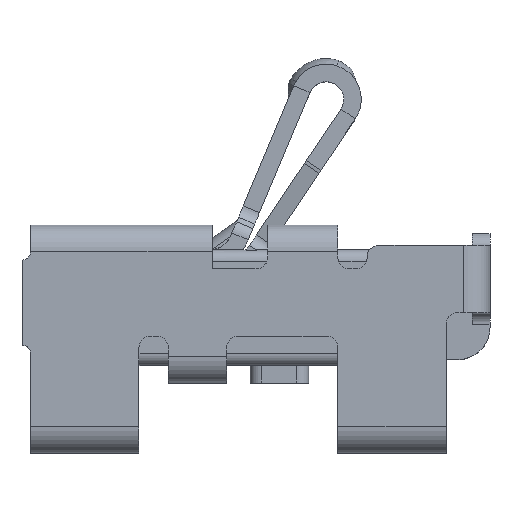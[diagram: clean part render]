
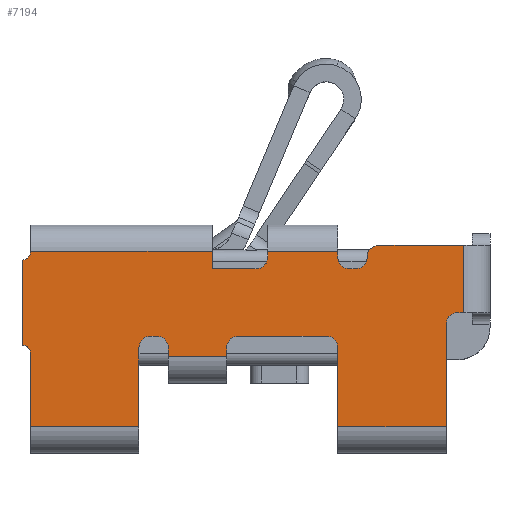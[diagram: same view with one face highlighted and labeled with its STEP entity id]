
A CAD part, top view. The second image highlights one B-rep face of the part: STEP entity #7194.
In plain terms, the highlighted planar face has unit normal (0, 0, 1).
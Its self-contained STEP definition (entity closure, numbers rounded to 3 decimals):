
#406=DIRECTION('',(0.,-1.,0.));
#407=VECTOR('',#406,0.25);
#408=CARTESIAN_POINT('',(-1.46,-0.02,0.3));
#409=LINE('',#408,#407);
#814=DIRECTION('',(1.,0.,0.));
#815=VECTOR('',#814,0.02);
#816=CARTESIAN_POINT('',(0.,0.12,0.3));
#817=LINE('',#816,#815);
#2282=CARTESIAN_POINT('',(-1.05,0.,0.3));
#2283=DIRECTION('',(0.,0.,1.));
#2284=DIRECTION('',(0.,1.,0.));
#2285=AXIS2_PLACEMENT_3D('',#2282,#2283,#2284);
#2287=CARTESIAN_POINT('',(-1.49,-0.02,0.3));
#2288=DIRECTION('',(0.,0.,1.));
#2289=DIRECTION('',(1.,0.,0.));
#2290=AXIS2_PLACEMENT_3D('',#2287,#2288,#2289);
#2292=DIRECTION('',(0.,1.,0.));
#2293=VECTOR('',#2292,0.29);
#2294=CARTESIAN_POINT('',(-1.49,0.01,0.3));
#2295=LINE('',#2294,#2293);
#2296=CARTESIAN_POINT('',(-1.49,0.33,0.3));
#2297=DIRECTION('',(0.,0.,1.));
#2298=DIRECTION('',(0.,-1.,0.));
#2299=AXIS2_PLACEMENT_3D('',#2296,#2297,#2298);
#2301=CARTESIAN_POINT('',(-0.69,0.31,0.3));
#2302=DIRECTION('',(0.,0.,1.));
#2303=DIRECTION('',(0.,-1.,0.));
#2304=AXIS2_PLACEMENT_3D('',#2301,#2302,#2303);
#2306=DIRECTION('',(0.,1.,0.));
#2307=VECTOR('',#2306,0.02);
#2308=CARTESIAN_POINT('',(-0.65,0.31,0.3));
#2309=LINE('',#2308,#2307);
#2310=CARTESIAN_POINT('',(-0.37,0.31,0.3));
#2311=DIRECTION('',(0.,0.,1.));
#2312=DIRECTION('',(-1.,0.,0.));
#2313=AXIS2_PLACEMENT_3D('',#2310,#2311,#2312);
#2315=CARTESIAN_POINT('',(-0.35,0.31,0.3));
#2316=DIRECTION('',(0.,0.,1.));
#2317=DIRECTION('',(0.,-1.,0.));
#2318=AXIS2_PLACEMENT_3D('',#2315,#2316,#2317);
#2320=CARTESIAN_POINT('',(-0.27,0.31,0.3));
#2321=DIRECTION('',(0.,0.,-1.));
#2322=DIRECTION('',(-1.,0.,0.));
#2323=AXIS2_PLACEMENT_3D('',#2320,#2321,#2322);
#2325=DIRECTION('',(1.,0.,0.));
#2326=VECTOR('',#2325,0.29);
#2327=CARTESIAN_POINT('',(-0.27,0.35,0.3));
#2328=LINE('',#2327,#2326);
#2329=CARTESIAN_POINT('',(0.,0.08,0.3));
#2330=DIRECTION('',(0.,0.,1.));
#2331=DIRECTION('',(0.,1.,0.));
#2332=AXIS2_PLACEMENT_3D('',#2329,#2330,#2331);
#2334=DIRECTION('',(0.,-1.,0.));
#2335=VECTOR('',#2334,0.35);
#2336=CARTESIAN_POINT('',(-0.04,0.08,0.3));
#2337=LINE('',#2336,#2335);
#2338=CARTESIAN_POINT('',(-0.45,0.,0.3));
#2339=DIRECTION('',(0.,0.,1.));
#2340=DIRECTION('',(1.,0.,0.));
#2341=AXIS2_PLACEMENT_3D('',#2338,#2339,#2340);
#2343=CARTESIAN_POINT('',(-0.75,0.,0.3));
#2344=DIRECTION('',(0.,0.,1.));
#2345=DIRECTION('',(0.,1.,0.));
#2346=AXIS2_PLACEMENT_3D('',#2343,#2344,#2345);
#2348=DIRECTION('',(0.,-1.,0.));
#2349=VECTOR('',#2348,0.03);
#2350=CARTESIAN_POINT('',(-0.79,0.,0.3));
#2351=LINE('',#2350,#2349);
#2352=CARTESIAN_POINT('',(-1.03,0.,0.3));
#2353=DIRECTION('',(0.,0.,1.));
#2354=DIRECTION('',(1.,0.,0.));
#2355=AXIS2_PLACEMENT_3D('',#2352,#2353,#2354);
#2361=DIRECTION('',(1.,0.,0.));
#2362=VECTOR('',#2361,0.02);
#2363=CARTESIAN_POINT('',(-1.05,0.04,0.3));
#2364=LINE('',#2363,#2362);
#2396=DIRECTION('',(0.,1.,0.));
#2397=VECTOR('',#2396,0.27);
#2398=CARTESIAN_POINT('',(-1.09,-0.27,0.3));
#2399=LINE('',#2398,#2397);
#2460=DIRECTION('',(1.,0.,0.));
#2461=VECTOR('',#2460,0.37);
#2462=CARTESIAN_POINT('',(-1.46,-0.27,0.3));
#2463=LINE('',#2462,#2461);
#2489=DIRECTION('',(0.,-1.,0.));
#2490=VECTOR('',#2489,0.03);
#2491=CARTESIAN_POINT('',(-0.99,0.,0.3));
#2492=LINE('',#2491,#2490);
#2502=DIRECTION('',(1.,0.,0.));
#2503=VECTOR('',#2502,0.2);
#2504=CARTESIAN_POINT('',(-0.99,-0.03,0.3));
#2505=LINE('',#2504,#2503);
#2537=DIRECTION('',(0.,-1.,0.));
#2538=VECTOR('',#2537,0.27);
#2539=CARTESIAN_POINT('',(-0.41,0.,0.3));
#2540=LINE('',#2539,#2538);
#2572=DIRECTION('',(1.,0.,0.));
#2573=VECTOR('',#2572,0.3);
#2574=CARTESIAN_POINT('',(-0.75,0.04,0.3));
#2575=LINE('',#2574,#2573);
#2593=DIRECTION('',(1.,0.,0.));
#2594=VECTOR('',#2593,0.37);
#2595=CARTESIAN_POINT('',(-0.41,-0.27,0.3));
#2596=LINE('',#2595,#2594);
#2721=DIRECTION('',(-1.,0.,0.));
#2722=VECTOR('',#2721,0.62);
#2723=CARTESIAN_POINT('',(-0.84,0.33,0.3));
#2724=LINE('',#2723,#2722);
#2950=DIRECTION('',(0.,1.,0.));
#2951=VECTOR('',#2950,0.06);
#2952=CARTESIAN_POINT('',(-0.84,0.27,0.3));
#2953=LINE('',#2952,#2951);
#2967=DIRECTION('',(-1.,0.,0.));
#2968=VECTOR('',#2967,0.15);
#2969=CARTESIAN_POINT('',(-0.69,0.27,0.3));
#2970=LINE('',#2969,#2968);
#3026=DIRECTION('',(0.,1.,0.));
#3027=VECTOR('',#3026,0.02);
#3028=CARTESIAN_POINT('',(-0.41,0.31,0.3));
#3029=LINE('',#3028,#3027);
#3052=DIRECTION('',(-1.,0.,0.));
#3053=VECTOR('',#3052,0.02);
#3054=CARTESIAN_POINT('',(-0.35,0.27,0.3));
#3055=LINE('',#3054,#3053);
#3056=DIRECTION('',(-1.,0.,0.));
#3057=VECTOR('',#3056,0.24);
#3058=CARTESIAN_POINT('',(-0.41,0.33,0.3));
#3059=LINE('',#3058,#3057);
#3120=DIRECTION('',(0.,1.,0.));
#3121=VECTOR('',#3120,0.23);
#3122=CARTESIAN_POINT('',(0.02,0.12,0.3));
#3123=LINE('',#3122,#3121);
#3380=CARTESIAN_POINT('',(0.02,0.12,0.3));
#3381=VERTEX_POINT('',#3380);
#3386=CARTESIAN_POINT('',(0.02,0.35,0.3));
#3387=VERTEX_POINT('',#3386);
#3750=CARTESIAN_POINT('',(-1.05,0.04,0.3));
#3751=CARTESIAN_POINT('',(-1.03,0.04,0.3));
#3752=VERTEX_POINT('',#3750);
#3753=VERTEX_POINT('',#3751);
#3754=CARTESIAN_POINT('',(-1.09,0.,0.3));
#3755=VERTEX_POINT('',#3754);
#3756=CARTESIAN_POINT('',(-1.09,-0.27,0.3));
#3757=VERTEX_POINT('',#3756);
#3758=CARTESIAN_POINT('',(-1.46,-0.27,0.3));
#3759=VERTEX_POINT('',#3758);
#3760=CARTESIAN_POINT('',(-1.46,-0.02,0.3));
#3761=VERTEX_POINT('',#3760);
#3762=CARTESIAN_POINT('',(-1.49,0.01,0.3));
#3763=VERTEX_POINT('',#3762);
#3764=CARTESIAN_POINT('',(-1.49,0.3,0.3));
#3765=VERTEX_POINT('',#3764);
#3766=CARTESIAN_POINT('',(-1.46,0.33,0.3));
#3767=VERTEX_POINT('',#3766);
#3768=CARTESIAN_POINT('',(-0.84,0.33,0.3));
#3769=VERTEX_POINT('',#3768);
#3770=CARTESIAN_POINT('',(-0.84,0.27,0.3));
#3771=VERTEX_POINT('',#3770);
#3772=CARTESIAN_POINT('',(-0.69,0.27,0.3));
#3773=VERTEX_POINT('',#3772);
#3774=CARTESIAN_POINT('',(-0.65,0.31,0.3));
#3775=VERTEX_POINT('',#3774);
#3776=CARTESIAN_POINT('',(-0.65,0.33,0.3));
#3777=VERTEX_POINT('',#3776);
#3778=CARTESIAN_POINT('',(-0.41,0.33,0.3));
#3779=VERTEX_POINT('',#3778);
#3780=CARTESIAN_POINT('',(-0.41,0.31,0.3));
#3781=VERTEX_POINT('',#3780);
#3782=CARTESIAN_POINT('',(-0.37,0.27,0.3));
#3783=VERTEX_POINT('',#3782);
#3784=CARTESIAN_POINT('',(-0.35,0.27,0.3));
#3785=VERTEX_POINT('',#3784);
#3786=CARTESIAN_POINT('',(-0.31,0.31,0.3));
#3787=VERTEX_POINT('',#3786);
#3788=CARTESIAN_POINT('',(-0.27,0.35,0.3));
#3789=VERTEX_POINT('',#3788);
#3790=CARTESIAN_POINT('',(0.,0.12,0.3));
#3791=VERTEX_POINT('',#3790);
#3792=CARTESIAN_POINT('',(-0.04,0.08,0.3));
#3793=VERTEX_POINT('',#3792);
#3794=CARTESIAN_POINT('',(-0.04,-0.27,0.3));
#3795=VERTEX_POINT('',#3794);
#3796=CARTESIAN_POINT('',(-0.41,-0.27,0.3));
#3797=VERTEX_POINT('',#3796);
#3798=CARTESIAN_POINT('',(-0.41,0.,0.3));
#3799=VERTEX_POINT('',#3798);
#3800=CARTESIAN_POINT('',(-0.45,0.04,0.3));
#3801=VERTEX_POINT('',#3800);
#3802=CARTESIAN_POINT('',(-0.75,0.04,0.3));
#3803=VERTEX_POINT('',#3802);
#3804=CARTESIAN_POINT('',(-0.79,0.,0.3));
#3805=VERTEX_POINT('',#3804);
#3806=CARTESIAN_POINT('',(-0.79,-0.03,0.3));
#3807=VERTEX_POINT('',#3806);
#3808=CARTESIAN_POINT('',(-0.99,-0.03,0.3));
#3809=VERTEX_POINT('',#3808);
#3810=CARTESIAN_POINT('',(-0.99,0.,0.3));
#3811=VERTEX_POINT('',#3810);
#7127=CARTESIAN_POINT('',(0.02,0.42,0.3));
#7128=DIRECTION('',(0.,0.,-1.));
#7129=DIRECTION('',(-1.,0.,0.));
#7130=AXIS2_PLACEMENT_3D('',#7127,#7128,#7129);
#7131=PLANE('',#7130);
#7133=ORIENTED_EDGE('',*,*,#7132,.F.);
#7135=ORIENTED_EDGE('',*,*,#7134,.T.);
#7137=ORIENTED_EDGE('',*,*,#7136,.F.);
#7139=ORIENTED_EDGE('',*,*,#7138,.F.);
#7140=ORIENTED_EDGE('',*,*,#4933,.F.);
#7142=ORIENTED_EDGE('',*,*,#7141,.T.);
#7144=ORIENTED_EDGE('',*,*,#7143,.T.);
#7145=ORIENTED_EDGE('',*,*,#7120,.T.);
#7147=ORIENTED_EDGE('',*,*,#7146,.F.);
#7149=ORIENTED_EDGE('',*,*,#7148,.F.);
#7151=ORIENTED_EDGE('',*,*,#7150,.F.);
#7153=ORIENTED_EDGE('',*,*,#7152,.T.);
#7155=ORIENTED_EDGE('',*,*,#7154,.T.);
#7157=ORIENTED_EDGE('',*,*,#7156,.F.);
#7159=ORIENTED_EDGE('',*,*,#7158,.F.);
#7161=ORIENTED_EDGE('',*,*,#7160,.T.);
#7163=ORIENTED_EDGE('',*,*,#7162,.F.);
#7164=ORIENTED_EDGE('',*,*,#4519,.T.);
#7165=ORIENTED_EDGE('',*,*,#4505,.T.);
#7167=ORIENTED_EDGE('',*,*,#7166,.T.);
#7169=ORIENTED_EDGE('',*,*,#7168,.F.);
#7170=ORIENTED_EDGE('',*,*,#5335,.F.);
#7172=ORIENTED_EDGE('',*,*,#7171,.T.);
#7173=ORIENTED_EDGE('',*,*,#5291,.T.);
#7175=ORIENTED_EDGE('',*,*,#7174,.F.);
#7177=ORIENTED_EDGE('',*,*,#7176,.F.);
#7179=ORIENTED_EDGE('',*,*,#7178,.T.);
#7181=ORIENTED_EDGE('',*,*,#7180,.F.);
#7183=ORIENTED_EDGE('',*,*,#7182,.T.);
#7185=ORIENTED_EDGE('',*,*,#7184,.T.);
#7187=ORIENTED_EDGE('',*,*,#7186,.F.);
#7189=ORIENTED_EDGE('',*,*,#7188,.F.);
#7191=ORIENTED_EDGE('',*,*,#7190,.T.);
#7192=EDGE_LOOP('',(#7133,#7135,#7137,#7139,#7140,#7142,#7144,#7145,#7147,#7149,
#7151,#7153,#7155,#7157,#7159,#7161,#7163,#7164,#7165,#7167,#7169,#7170,#7172,
#7173,#7175,#7177,#7179,#7181,#7183,#7185,#7187,#7189,#7191));
#7193=FACE_OUTER_BOUND('',#7192,.F.);
#7194=ADVANCED_FACE('',(#7193),#7131,.F.);
#2286=CIRCLE('',#2285,0.04);
#2291=CIRCLE('',#2290,0.03);
#2300=CIRCLE('',#2299,0.03);
#2305=CIRCLE('',#2304,0.04);
#2314=CIRCLE('',#2313,0.04);
#2319=CIRCLE('',#2318,0.04);
#2324=CIRCLE('',#2323,0.04);
#2333=CIRCLE('',#2332,0.04);
#2342=CIRCLE('',#2341,0.04);
#2347=CIRCLE('',#2346,0.04);
#2356=CIRCLE('',#2355,0.04);
#4505=EDGE_CURVE('',#3787,#3789,#2324,.T.);
#4519=EDGE_CURVE('',#3785,#3787,#2319,.T.);
#4933=EDGE_CURVE('',#3761,#3759,#409,.T.);
#5291=EDGE_CURVE('',#3793,#3795,#2337,.T.);
#5335=EDGE_CURVE('',#3791,#3381,#817,.T.);
#7120=EDGE_CURVE('',#3765,#3767,#2300,.T.);
#7132=EDGE_CURVE('',#3752,#3753,#2364,.T.);
#7134=EDGE_CURVE('',#3752,#3755,#2286,.T.);
#7136=EDGE_CURVE('',#3757,#3755,#2399,.T.);
#7138=EDGE_CURVE('',#3759,#3757,#2463,.T.);
#7141=EDGE_CURVE('',#3761,#3763,#2291,.T.);
#7143=EDGE_CURVE('',#3763,#3765,#2295,.T.);
#7146=EDGE_CURVE('',#3769,#3767,#2724,.T.);
#7148=EDGE_CURVE('',#3771,#3769,#2953,.T.);
#7150=EDGE_CURVE('',#3773,#3771,#2970,.T.);
#7152=EDGE_CURVE('',#3773,#3775,#2305,.T.);
#7154=EDGE_CURVE('',#3775,#3777,#2309,.T.);
#7156=EDGE_CURVE('',#3779,#3777,#3059,.T.);
#7158=EDGE_CURVE('',#3781,#3779,#3029,.T.);
#7160=EDGE_CURVE('',#3781,#3783,#2314,.T.);
#7162=EDGE_CURVE('',#3785,#3783,#3055,.T.);
#7166=EDGE_CURVE('',#3789,#3387,#2328,.T.);
#7168=EDGE_CURVE('',#3381,#3387,#3123,.T.);
#7171=EDGE_CURVE('',#3791,#3793,#2333,.T.);
#7174=EDGE_CURVE('',#3797,#3795,#2596,.T.);
#7176=EDGE_CURVE('',#3799,#3797,#2540,.T.);
#7178=EDGE_CURVE('',#3799,#3801,#2342,.T.);
#7180=EDGE_CURVE('',#3803,#3801,#2575,.T.);
#7182=EDGE_CURVE('',#3803,#3805,#2347,.T.);
#7184=EDGE_CURVE('',#3805,#3807,#2351,.T.);
#7186=EDGE_CURVE('',#3809,#3807,#2505,.T.);
#7188=EDGE_CURVE('',#3811,#3809,#2492,.T.);
#7190=EDGE_CURVE('',#3811,#3753,#2356,.T.);
